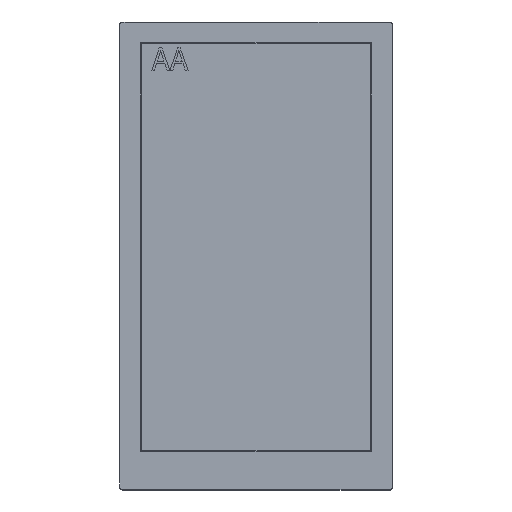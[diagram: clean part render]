
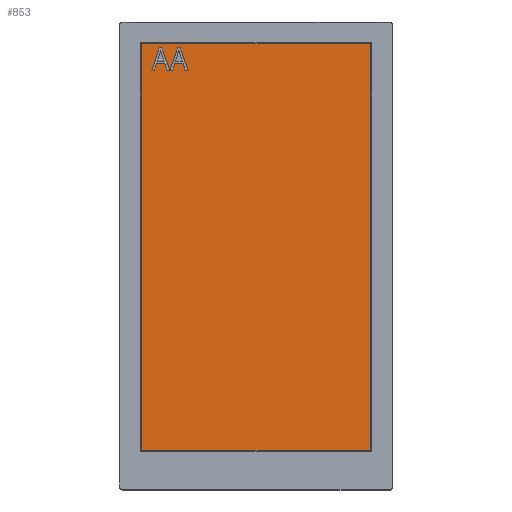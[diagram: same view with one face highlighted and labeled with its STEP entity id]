
A CAD part, top view. The second image highlights one B-rep face of the part: STEP entity #853.
In plain terms, the highlighted planar face has unit normal (0, 0, 1).
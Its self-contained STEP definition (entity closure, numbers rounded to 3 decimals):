
#174=B_SPLINE_CURVE_WITH_KNOTS('',3,(#3161,#3162,#3163,#3164),
 .UNSPECIFIED.,.F.,.F.,(4,4),(0.,1.),.UNSPECIFIED.);
#176=B_SPLINE_CURVE_WITH_KNOTS('',3,(#3175,#3176,#3177,#3178),
 .UNSPECIFIED.,.F.,.F.,(4,4),(0.,1.),.UNSPECIFIED.);
#178=B_SPLINE_CURVE_WITH_KNOTS('',3,(#3187,#3188,#3189,#3190),
 .UNSPECIFIED.,.F.,.F.,(4,4),(0.,1.),.UNSPECIFIED.);
#180=B_SPLINE_CURVE_WITH_KNOTS('',3,(#3196,#3197,#3198,#3199),
 .UNSPECIFIED.,.F.,.F.,(4,4),(0.,1.),.UNSPECIFIED.);
#853=ADVANCED_FACE('',(#1011),#929,.F.);
#929=PLANE('',#2016);
#1011=FACE_OUTER_BOUND('',#1097,.T.);
#1097=EDGE_LOOP('',(#1421,#1422,#1423,#1424));
#1421=ORIENTED_EDGE('',*,*,#1721,.T.);
#1422=ORIENTED_EDGE('',*,*,#1725,.T.);
#1423=ORIENTED_EDGE('',*,*,#1728,.T.);
#1424=ORIENTED_EDGE('',*,*,#1730,.T.);
#1555=VERTEX_POINT('',#3160);
#1556=VERTEX_POINT('',#3165);
#1558=VERTEX_POINT('',#3174);
#1560=VERTEX_POINT('',#3186);
#1721=EDGE_CURVE('',#1556,#1555,#174,.T.);
#1725=EDGE_CURVE('',#1555,#1558,#176,.T.);
#1728=EDGE_CURVE('',#1558,#1560,#178,.T.);
#1730=EDGE_CURVE('',#1560,#1556,#180,.T.);
#2016=AXIS2_PLACEMENT_3D('',#3201,#2264,#2265);
#2264=DIRECTION('',(0.,0.,-1.));
#2265=DIRECTION('',(-1.,0.,0.));
#3160=CARTESIAN_POINT('',(323.316,-32.576,1.12));
#3161=CARTESIAN_POINT('',(261.756,-32.576,1.12));
#3162=CARTESIAN_POINT('',(282.276,-32.576,1.12));
#3163=CARTESIAN_POINT('',(302.796,-32.576,1.12));
#3164=CARTESIAN_POINT('',(323.316,-32.576,1.12));
#3165=CARTESIAN_POINT('',(261.756,-32.576,1.12));
#3174=CARTESIAN_POINT('',(323.316,76.95,1.12));
#3175=CARTESIAN_POINT('',(323.316,-32.576,1.12));
#3176=CARTESIAN_POINT('',(323.316,3.933,1.12));
#3177=CARTESIAN_POINT('',(323.316,40.441,1.12));
#3178=CARTESIAN_POINT('',(323.316,76.95,1.12));
#3186=CARTESIAN_POINT('',(261.756,76.95,1.12));
#3187=CARTESIAN_POINT('',(323.316,76.95,1.12));
#3188=CARTESIAN_POINT('',(302.796,76.95,1.12));
#3189=CARTESIAN_POINT('',(282.276,76.95,1.12));
#3190=CARTESIAN_POINT('',(261.756,76.95,1.12));
#3196=CARTESIAN_POINT('',(261.756,76.95,1.12));
#3197=CARTESIAN_POINT('',(261.756,40.441,1.12));
#3198=CARTESIAN_POINT('',(261.756,3.933,1.12));
#3199=CARTESIAN_POINT('',(261.756,-32.576,1.12));
#3201=CARTESIAN_POINT('',(292.536,-32.576,1.12));
